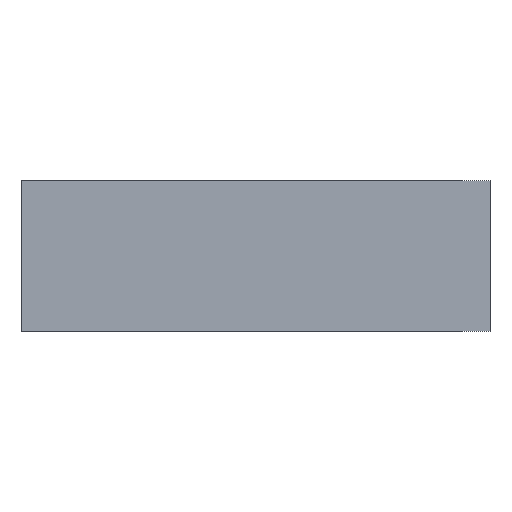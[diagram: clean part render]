
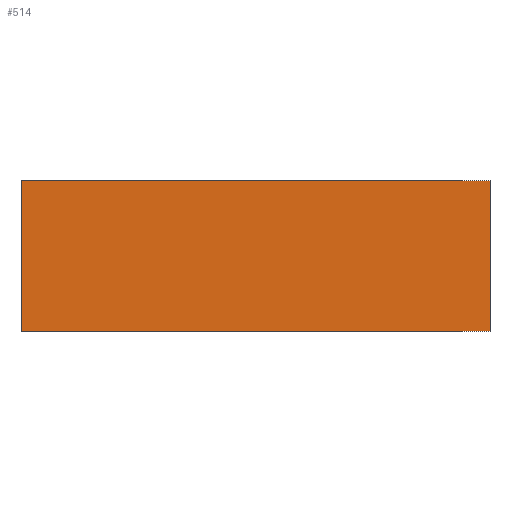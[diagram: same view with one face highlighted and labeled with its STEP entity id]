
A CAD part, front view. The second image highlights one B-rep face of the part: STEP entity #514.
In plain terms, the highlighted planar face has unit normal (0, -1, 0).
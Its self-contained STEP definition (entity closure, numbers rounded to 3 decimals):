
#43 = FACE_OUTER_BOUND ( 'NONE', #301, .T. ) ;
#48 = VECTOR ( 'NONE', #1095, 1000. ) ;
#49 = LINE ( 'NONE', #1094, #48 ) ;
#90 = VECTOR ( 'NONE', #655, 1000. ) ;
#91 = LINE ( 'NONE', #654, #90 ) ;
#164 = VECTOR ( 'NONE', #580, 1000. ) ;
#165 = LINE ( 'NONE', #579, #164 ) ;
#247 = VECTOR ( 'NONE', #873, 1000. ) ;
#254 = LINE ( 'NONE', #878, #247 ) ;
#284 = ORIENTED_EDGE ( 'NONE', *, *, #380, .T. ) ;
#289 = ORIENTED_EDGE ( 'NONE', *, *, #505, .F. ) ;
#290 = ORIENTED_EDGE ( 'NONE', *, *, #433, .T. ) ;
#294 = ORIENTED_EDGE ( 'NONE', *, *, #479, .F. ) ;
#301 = EDGE_LOOP ( 'NONE', ( #290, #294, #289, #284 ) ) ;
#373 = AXIS2_PLACEMENT_3D ( 'NONE', #1114, #1120, #1121 ) ;
#380 = EDGE_CURVE ( 'NONE', #928, #926, #254, .T. ) ;
#433 = EDGE_CURVE ( 'NONE', #926, #927, #165, .T. ) ;
#479 = EDGE_CURVE ( 'NONE', #931, #927, #91, .T. ) ;
#505 = EDGE_CURVE ( 'NONE', #928, #931, #49, .T. ) ;
#514 = ADVANCED_FACE ( 'NONE', ( #43 ), #1111, .F. ) ;
#579 = CARTESIAN_POINT ( 'NONE',  ( -101., 0., 0. ) ) ;
#580 = DIRECTION ( 'NONE',  ( 1., 0., 0. ) ) ;
#654 = CARTESIAN_POINT ( 'NONE',  ( 101., 0., 65. ) ) ;
#655 = DIRECTION ( 'NONE',  ( 0., 0., -1. ) ) ;
#873 = DIRECTION ( 'NONE',  ( 0., 0., -1. ) ) ;
#878 = CARTESIAN_POINT ( 'NONE',  ( -101., 0., 65. ) ) ;
#926 = VERTEX_POINT ( 'NONE', #982 ) ;
#927 = VERTEX_POINT ( 'NONE', #983 ) ;
#928 = VERTEX_POINT ( 'NONE', #984 ) ;
#931 = VERTEX_POINT ( 'NONE', #987 ) ;
#982 = CARTESIAN_POINT ( 'NONE',  ( -101., 0., 0. ) ) ;
#983 = CARTESIAN_POINT ( 'NONE',  ( 101., 0., 0. ) ) ;
#984 = CARTESIAN_POINT ( 'NONE',  ( -101., 0., 65. ) ) ;
#987 = CARTESIAN_POINT ( 'NONE',  ( 101., 0., 65. ) ) ;
#1094 = CARTESIAN_POINT ( 'NONE',  ( -101., 0., 65. ) ) ;
#1095 = DIRECTION ( 'NONE',  ( 1., 0., 0. ) ) ;
#1111 = PLANE ( 'NONE',  #373 ) ;
#1114 = CARTESIAN_POINT ( 'NONE',  ( -101., 0., 65. ) ) ;
#1120 = DIRECTION ( 'NONE',  ( 0., 1., 0. ) ) ;
#1121 = DIRECTION ( 'NONE',  ( -1., 0., 0. ) ) ;
